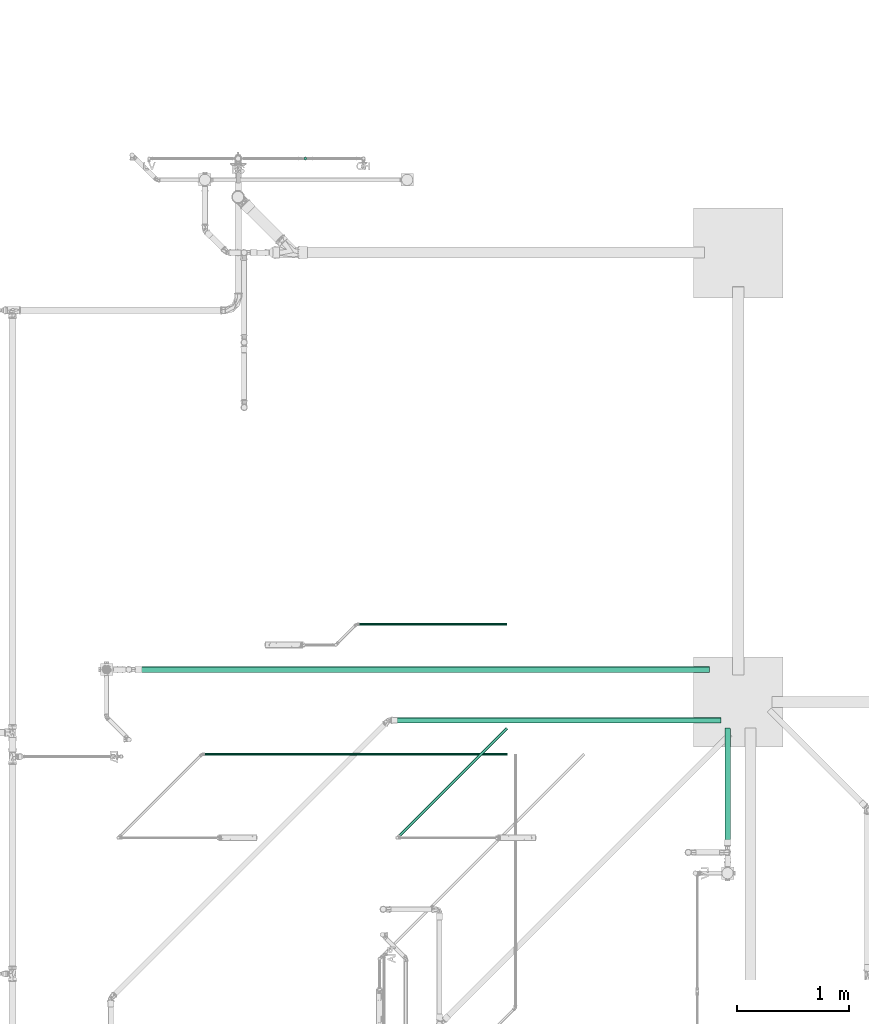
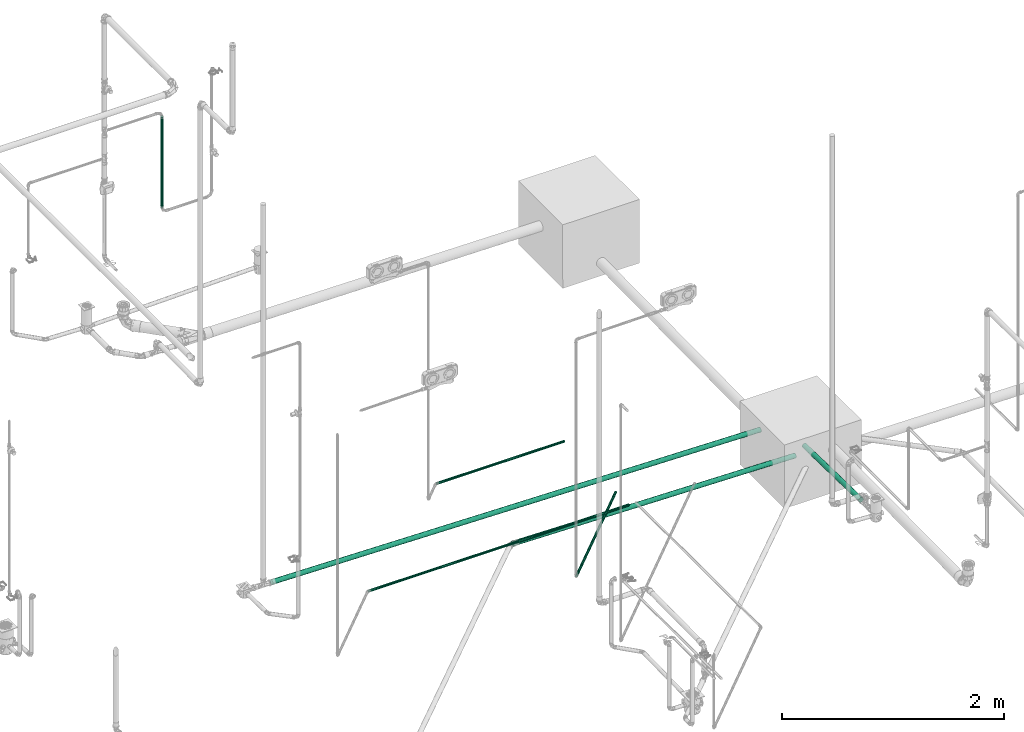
# One storey, part 23 of 589: 7 flow segments.
"""IFC2X3 building model written with IfcOpenShell, lengths in millimetres."""

from ifc_helpers import new_model, entity, si_unit, converted_unit, derived_unit, direction, frame, frame_2d, origin, place, context, subcontext, project, spatial, circle, extrude, type_object, element, save


model = new_model("IFC2X3")

# Units and contexts
model_context = context("Model", 3, precision=0.01, world=origin(), true_north=direction((6.123031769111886e-17, 1.0)))
body_context = subcontext(model_context, "Body", "Model", "MODEL_VIEW")
ifc_project = project(units=[si_unit("LENGTHUNIT", "METRE", prefix="MILLI"), si_unit("AREAUNIT", "SQUARE_METRE"), si_unit("VOLUMEUNIT", "CUBIC_METRE"), converted_unit("PLANEANGLEUNIT", "DEGREE", entity("IfcRatioMeasure", 0.017453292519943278), si_unit("PLANEANGLEUNIT", "RADIAN"), dimensions=[0, 0, 0, 0, 0, 0, 0]), si_unit("MASSUNIT", "GRAM", prefix="KILO"), derived_unit("MASSDENSITYUNIT", [(si_unit("MASSUNIT", "GRAM", prefix="KILO"), 1), (si_unit("LENGTHUNIT", "METRE"), -3)]), derived_unit("IONCONCENTRATIONUNIT", [(si_unit("MASSUNIT", "GRAM", prefix="KILO"), 1), (si_unit("LENGTHUNIT", "METRE"), -3)]), derived_unit("MOMENTOFINERTIAUNIT", [(si_unit("LENGTHUNIT", "METRE"), 4)]), si_unit("TIMEUNIT", "SECOND"), si_unit("FREQUENCYUNIT", "HERTZ"), si_unit("THERMODYNAMICTEMPERATUREUNIT", "DEGREE_CELSIUS"), derived_unit("THERMALTRANSMITTANCEUNIT", [(si_unit("MASSUNIT", "GRAM", prefix="KILO"), 1), (si_unit("THERMODYNAMICTEMPERATUREUNIT", "KELVIN"), -1), (si_unit("TIMEUNIT", "SECOND"), -3)]), derived_unit("THERMALCONDUCTANCEUNIT", [(si_unit("MASSUNIT", "GRAM", prefix="KILO"), 1), (si_unit("THERMODYNAMICTEMPERATUREUNIT", "KELVIN"), -1), (si_unit("TIMEUNIT", "SECOND"), -3), (si_unit("LENGTHUNIT", "METRE"), 1)]), derived_unit("VOLUMETRICFLOWRATEUNIT", [(si_unit("LENGTHUNIT", "METRE"), 3), (si_unit("TIMEUNIT", "SECOND"), -1)]), derived_unit("MASSFLOWRATEUNIT", [(si_unit("MASSUNIT", "GRAM", prefix="KILO"), 1), (si_unit("TIMEUNIT", "SECOND"), -1)]), derived_unit("ROTATIONALFREQUENCYUNIT", [(si_unit("TIMEUNIT", "SECOND"), -1)]), si_unit("ELECTRICCURRENTUNIT", "AMPERE"), si_unit("ELECTRICVOLTAGEUNIT", "VOLT"), si_unit("POWERUNIT", "WATT"), si_unit("FORCEUNIT", "NEWTON", prefix="KILO"), si_unit("ILLUMINANCEUNIT", "LUX"), si_unit("LUMINOUSFLUXUNIT", "LUMEN"), si_unit("LUMINOUSINTENSITYUNIT", "CANDELA"), derived_unit("USERDEFINED", [(si_unit("MASSUNIT", "GRAM", prefix="KILO"), -1), (si_unit("LENGTHUNIT", "METRE"), -2), (si_unit("TIMEUNIT", "SECOND"), 3), (si_unit("LUMINOUSFLUXUNIT", "LUMEN"), 1)]), derived_unit("USERDEFINED", [(si_unit("MASSUNIT", "GRAM", prefix="KILO"), 1), (si_unit("TIMEUNIT", "SECOND"), -3), (si_unit("LENGTHUNIT", "METRE"), 3), (si_unit("ELECTRICCURRENTUNIT", "AMPERE"), -2)]), derived_unit("SOUNDPOWERUNIT", [(si_unit("MASSUNIT", "GRAM", prefix="KILO"), 1), (si_unit("TIMEUNIT", "SECOND"), -3), (si_unit("LENGTHUNIT", "METRE"), 2)]), derived_unit("SOUNDPRESSUREUNIT", [(si_unit("MASSUNIT", "GRAM", prefix="KILO"), 1), (si_unit("LENGTHUNIT", "METRE"), -1), (si_unit("TIMEUNIT", "SECOND"), -2)]), derived_unit("LINEARVELOCITYUNIT", [(si_unit("LENGTHUNIT", "METRE"), 1), (si_unit("TIMEUNIT", "SECOND"), -1)]), si_unit("PRESSUREUNIT", "PASCAL"), derived_unit("USERDEFINED", [(si_unit("MASSUNIT", "GRAM", prefix="KILO"), 1), (si_unit("LENGTHUNIT", "METRE"), -2), (si_unit("TIMEUNIT", "SECOND"), -2)]), derived_unit("LINEARFORCEUNIT", [(si_unit("MASSUNIT", "GRAM", prefix="KILO"), 1), (si_unit("TIMEUNIT", "SECOND"), -2)]), derived_unit("PLANARFORCEUNIT", [(si_unit("MASSUNIT", "GRAM", prefix="KILO"), 1), (si_unit("LENGTHUNIT", "METRE"), -1), (si_unit("TIMEUNIT", "SECOND"), -2)]), derived_unit("SPECIFICHEATCAPACITYUNIT", [(si_unit("THERMODYNAMICTEMPERATUREUNIT", "KELVIN"), -1), (si_unit("LENGTHUNIT", "METRE"), 2), (si_unit("TIMEUNIT", "SECOND"), -2)]), derived_unit("HEATINGVALUEUNIT", [(si_unit("LENGTHUNIT", "METRE"), 2), (si_unit("TIMEUNIT", "SECOND"), -2)]), derived_unit("VAPORPERMEABILITYUNIT", [(si_unit("LENGTHUNIT", "METRE"), -1), (si_unit("TIMEUNIT", "SECOND"), 1)]), derived_unit("DYNAMICVISCOSITYUNIT", [(si_unit("MASSUNIT", "GRAM", prefix="KILO"), 1), (si_unit("TIMEUNIT", "SECOND"), -1), (si_unit("LENGTHUNIT", "METRE"), -1)]), derived_unit("THERMALEXPANSIONCOEFFICIENTUNIT", [(si_unit("THERMODYNAMICTEMPERATUREUNIT", "KELVIN"), -1)]), derived_unit("MODULUSOFELASTICITYUNIT", [(si_unit("MASSUNIT", "GRAM", prefix="KILO"), 1), (si_unit("LENGTHUNIT", "METRE"), -1), (si_unit("TIMEUNIT", "SECOND"), -2)]), derived_unit("ISOTHERMALMOISTURECAPACITYUNIT", [(si_unit("LENGTHUNIT", "METRE"), 3), (si_unit("MASSUNIT", "GRAM", prefix="KILO"), -1)]), derived_unit("MOISTUREDIFFUSIVITYUNIT", [(si_unit("TIMEUNIT", "SECOND"), -1), (si_unit("LENGTHUNIT", "METRE"), 2)])], contexts=[model_context])

# Site, building, storey
site_placement = place(None, origin())
site = spatial("IfcSite", under=ifc_project, at=site_placement, Name="Default", CompositionType="ELEMENT")
building_placement = place(site_placement, origin())
building = spatial("IfcBuilding", under=site, at=building_placement, CompositionType="ELEMENT")
storey_placement = place(building_placement, frame((0.0, 0.0, 100.0)))
storey = spatial("IfcBuildingStorey", under=building, at=storey_placement, Name="TÉRREO", CompositionType="ELEMENT", Elevation=100.0)

# Flow segments
pipe_segment_type_1 = type_object("IfcPipeSegmentType", Name="Tipos de tubos:PVC Esgoto Série Normal", PredefinedType="NOTDEFINED")
flow_segment_1_placement = place(storey_placement, origin())
element("IfcFlowSegment", 1, at=flow_segment_1_placement, inside=storey, type_object=pipe_segment_type_1, Name="Tipos de tubos:PVC Esgoto Série Normal", ObjectType="Tipos de tubos:PVC Esgoto Série Normal", context=body_context, shape_type="SweptSolid", body=[
    extrude(circle(Radius=25.0, at=frame_2d((0.0, -1.1503162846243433e-14), x_axis=(1.0, 0.0))), frame((10412.795167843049, 1442.9520734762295, -190.76840842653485), z_axis=(0.0, 0.9998000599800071, -0.019996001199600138), x_axis=(1.0, 0.0, 0.0)), (0.0, 0.0, 1.0), 1019.9999999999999),
])
flow_segment_2_placement = place(storey_placement, origin())
element("IfcFlowSegment", 2, at=flow_segment_2_placement, inside=storey, type_object=pipe_segment_type_1, Name="Tipos de tubos:PVC Esgoto Série Normal", ObjectType="Tipos de tubos:PVC Esgoto Série Normal", context=body_context, shape_type="SweptSolid", body=[
    extrude(circle(Radius=25.0, at=frame_2d((0.0, -3.383283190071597e-14), x_axis=(1.0, 0.0))), frame((7411.800384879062, 2533.929553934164, -284.95344836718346), z_axis=(0.999800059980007, 0.0, -0.019996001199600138), x_axis=(0.0, -1.0, 0.0)), (0.0, 0.0, 1.0), 2944.4335188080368),
])
flow_segment_3_placement = place(storey_placement, origin())
element("IfcFlowSegment", 3, at=flow_segment_3_placement, inside=storey, type_object=pipe_segment_type_1, Name="Tipos de tubos:PVC Esgoto Série Normal", ObjectType="Tipos de tubos:PVC Esgoto Série Normal", context=body_context, shape_type="SweptSolid", body=[
    extrude(circle(Radius=25.0, at=frame_2d((0.0, -1.6916415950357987e-14), x_axis=(1.0, 0.0))), frame((5167.129459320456, 2985.7274599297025, -195.3849624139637), z_axis=(0.9998000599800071, 0.0, -0.01999600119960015), x_axis=(0.0, -1.0, 0.0)), (0.0, 0.0, 1.0), 5086.17305522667),
])
pipe_segment_type_2 = type_object("IfcPipeSegmentType", Name="Tipos de tubos:PVC Marrom Soldável", PredefinedType="NOTDEFINED")
flow_segment_4_placement = place(storey_placement, origin())
element("IfcFlowSegment", 4, at=flow_segment_4_placement, inside=storey, type_object=pipe_segment_type_2, Name="Tipos de tubos:PVC Marrom Soldável", ObjectType="Tipos de tubos:PVC Marrom Soldável", context=body_context, shape_type="SweptSolid", body=[
    extrude(circle(Radius=12.5, at=frame_2d((0.0, 1.0828671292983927e-12), x_axis=(1.0, 0.0))), frame((6653.644721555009, 7535.924752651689, 646.9900000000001)), (0.0, 0.0, 1.0), 1006.0199999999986),
])
flow_segment_5_placement = place(storey_placement, origin())
element("IfcFlowSegment", 5, at=flow_segment_5_placement, inside=storey, type_object=pipe_segment_type_2, Name="Tipos de tubos:PVC Marrom Soldável", ObjectType="Tipos de tubos:PVC Marrom Soldável", context=body_context, shape_type="SweptSolid", body=[
    extrude(circle(Radius=12.5, at=frame_2d((0.0, -8.459899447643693e-15), x_axis=(1.0, 0.0))), frame((7116.458385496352, 3388.809357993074, -37.35980762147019), z_axis=(1.0, 0.0, 0.0), x_axis=(0.0, -1.0, 0.0)), (0.0, 0.0, 1.0), 1332.4795816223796),
])
flow_segment_6_placement = place(storey_placement, origin())
element("IfcFlowSegment", 6, at=flow_segment_6_placement, inside=storey, type_object=pipe_segment_type_2, Name="Tipos de tubos:PVC Marrom Soldável", ObjectType="Tipos de tubos:PVC Marrom Soldável", context=body_context, shape_type="SweptSolid", body=[
    extrude(circle(Radius=12.5, at=frame_2d((1.4832918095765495e-24, -8.459899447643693e-15), x_axis=(1.0, 0.0))), frame((7483.126986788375, 1498.9454780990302, -37.352537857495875), z_axis=(0.707106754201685, 0.707106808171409, 0.0), x_axis=(0.707106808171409, -0.707106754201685, 0.0)), (0.0, 0.0, 1.0), 1365.8630391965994),
])
flow_segment_7_placement = place(storey_placement, origin())
element("IfcFlowSegment", 7, at=flow_segment_7_placement, inside=storey, type_object=pipe_segment_type_2, Name="Tipos de tubos:PVC Marrom Soldável", ObjectType="Tipos de tubos:PVC Marrom Soldável", context=body_context, shape_type="SweptSolid", body=[
    extrude(circle(Radius=12.5, at=frame_2d((0.0, -1.6919798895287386e-14), x_axis=(1.0, 0.0))), frame((5740.300216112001, 2232.1963481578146, -37.35253792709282), z_axis=(1.0, 0.0, 0.0), x_axis=(0.0, -1.0, 0.0)), (0.0, 0.0, 1.0), 2712.935324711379),
])

save(model, "model.ifc")
